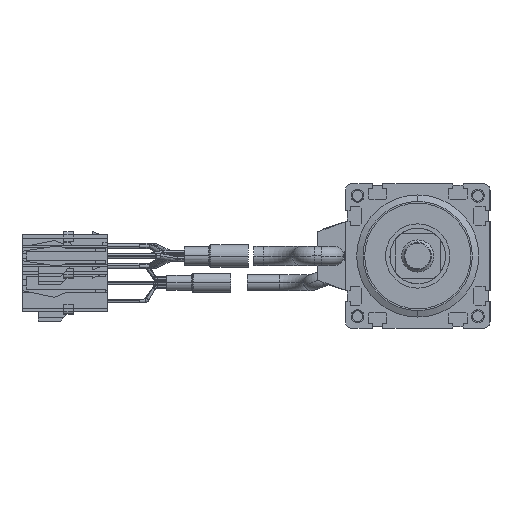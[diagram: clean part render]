
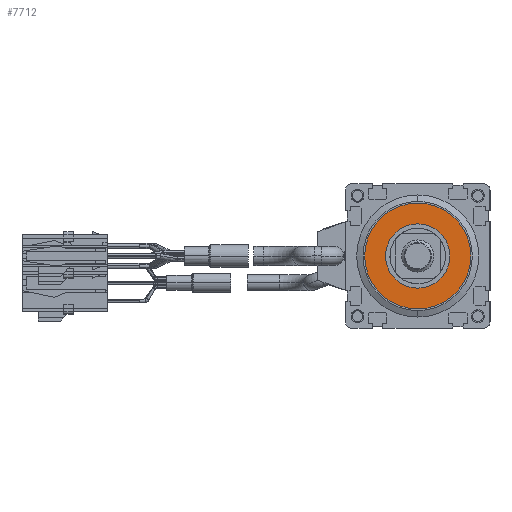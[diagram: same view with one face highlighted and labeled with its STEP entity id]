
A CAD part, left-side view. The second image highlights one B-rep face of the part: STEP entity #7712.
In plain terms, the highlighted planar face has unit normal (-1, 0, 0).
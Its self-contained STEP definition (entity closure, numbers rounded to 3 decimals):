
#2024=CARTESIAN_POINT('',(-326.5,0.,0.));
#2025=DIRECTION('',(1.,0.,0.));
#2026=DIRECTION('',(0.,1.,0.));
#2027=AXIS2_PLACEMENT_3D('',#2024,#2025,#2026);
#2029=CARTESIAN_POINT('',(-326.5,0.,0.));
#2030=DIRECTION('',(1.,0.,0.));
#2031=DIRECTION('',(0.,-1.,0.));
#2032=AXIS2_PLACEMENT_3D('',#2029,#2030,#2031);
#2034=CARTESIAN_POINT('',(-326.5,0.,0.));
#2035=DIRECTION('',(-1.,0.,0.));
#2036=DIRECTION('',(0.,0.,1.));
#2037=AXIS2_PLACEMENT_3D('',#2034,#2035,#2036);
#2039=CARTESIAN_POINT('',(-326.5,0.,0.));
#2040=DIRECTION('',(-1.,0.,0.));
#2041=DIRECTION('',(0.,0.,-1.));
#2042=AXIS2_PLACEMENT_3D('',#2039,#2040,#2041);
#3696=CARTESIAN_POINT('',(-326.5,16.5,0.));
#3697=VERTEX_POINT('',#3696);
#3698=CARTESIAN_POINT('',(-326.5,-16.5,0.));
#3699=VERTEX_POINT('',#3698);
#4675=CARTESIAN_POINT('',(-326.5,0.,10.));
#4676=CARTESIAN_POINT('',(-326.5,0.,-10.));
#4677=VERTEX_POINT('',#4675);
#4678=VERTEX_POINT('',#4676);
#7697=CARTESIAN_POINT('',(-326.5,0.,0.));
#7698=DIRECTION('',(1.,0.,0.));
#7699=DIRECTION('',(0.,1.,0.));
#7700=AXIS2_PLACEMENT_3D('',#7697,#7698,#7699);
#7701=PLANE('',#7700);
#7702=ORIENTED_EDGE('',*,*,#7677,.T.);
#7703=ORIENTED_EDGE('',*,*,#7691,.T.);
#7704=EDGE_LOOP('',(#7702,#7703));
#7705=FACE_OUTER_BOUND('',#7704,.F.);
#7707=ORIENTED_EDGE('',*,*,#7706,.T.);
#7709=ORIENTED_EDGE('',*,*,#7708,.T.);
#7710=EDGE_LOOP('',(#7707,#7709));
#7711=FACE_BOUND('',#7710,.F.);
#7712=ADVANCED_FACE('',(#7705,#7711),#7701,.F.);
#2028=CIRCLE('',#2027,16.5);
#2033=CIRCLE('',#2032,16.5);
#2038=CIRCLE('',#2037,10.);
#2043=CIRCLE('',#2042,10.);
#7677=EDGE_CURVE('',#3697,#3699,#2028,.T.);
#7691=EDGE_CURVE('',#3699,#3697,#2033,.T.);
#7706=EDGE_CURVE('',#4677,#4678,#2038,.T.);
#7708=EDGE_CURVE('',#4678,#4677,#2043,.T.);
